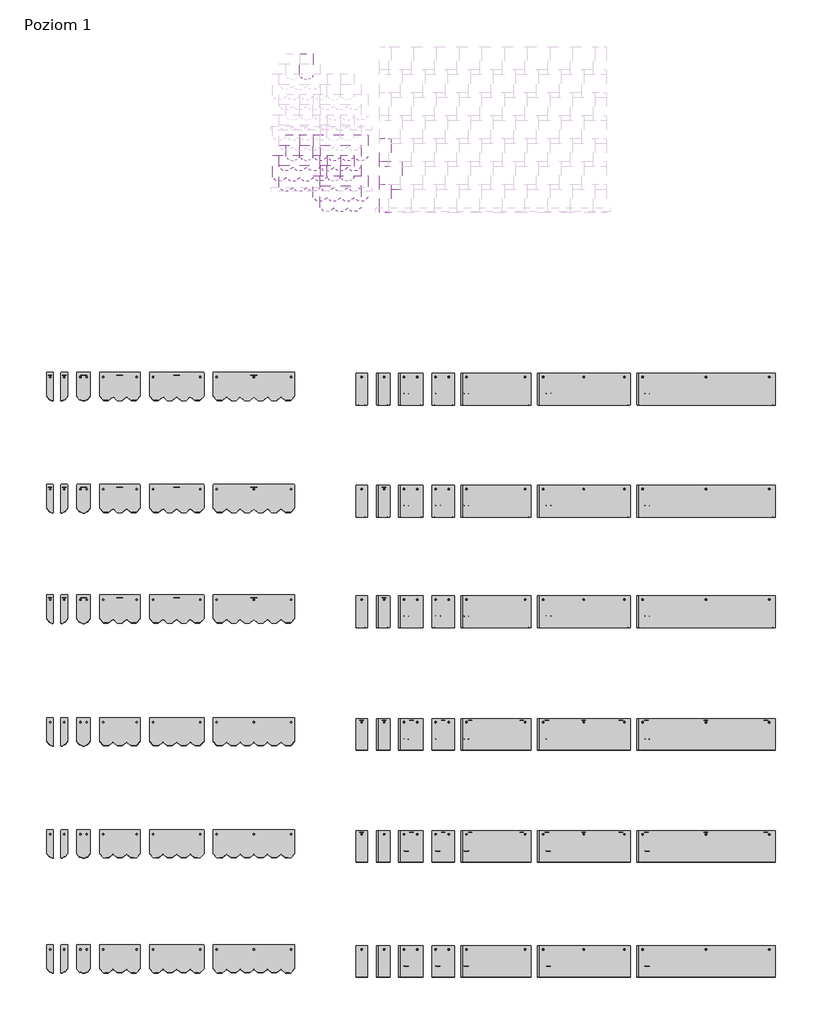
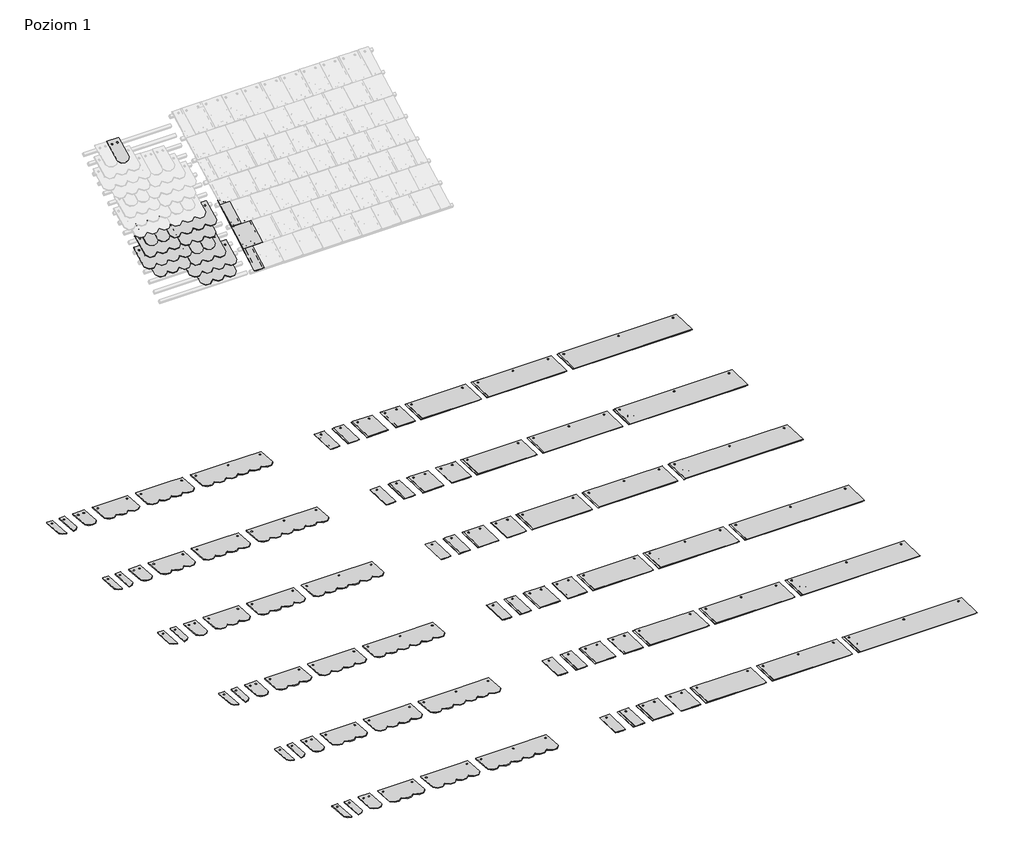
# One storey, part 1 of 2: 94 proxies.
"""IFC4 building model written with IfcOpenShell, lengths in millimetres."""

from ifc_helpers import new_model, si_unit, origin, place, context, project, spatial, transform, mapped, element, save
from components import specialty_equipment_401cbe25, specialty_equipment_79304ab4, specialty_equipment_e27853ea, specialty_equipment_b6c8b219, specialty_equipment_927044ca, specialty_equipment_171a1449, specialty_equipment_2edcc2fe, proxy_1x_fa84d4f5, proxy_1x_8219172e, proxy_1x_6a27df64, proxy_3x_50ce0638, proxy_3x_0312541a, proxy_3x_219e119c, proxy_4x_a6b47b4e, proxy_4x_862be2c8, proxy_4x_7edb7a29, proxy_6x_53d5dd8c, proxy_6x_89e27b86, proxy_6x_9bf9bb63

model = new_model("IFC4")

# Units and contexts
model_context = context("Model", 3, world=origin())
ifc_project = project(units=[si_unit("LENGTHUNIT", "METRE", prefix="MILLI")], contexts=[model_context])

# Site, building, storey
site = spatial("IfcSite", under=ifc_project)
building = spatial("IfcBuilding", under=site)
storey = spatial("IfcBuildingStorey", under=building, Name="Poziom 1", Elevation=0.0)

# Proxies
placement = place(None, origin())
specialty_equipment_shape = specialty_equipment_401cbe25(model_context)
element("IfcBuildingElementProxy", 1, Name="ML PhotonRoof Flat Brick : 0.5X-L", ObjectType="ML PhotonRoof Flat Brick : 0.5X-L", at=placement, inside=storey, context=model_context, shape_type="MappedRepresentation", body=[
    mapped(specialty_equipment_shape, transform((-180.7886234, 2862.1383003, 1771.5895588), x_axis=(1.0, 0.0, 0.0), y_axis=(0.0, 0.8660254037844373, 0.5000000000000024), z_axis=(0.0, -0.5000000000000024, 0.8660254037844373))),
])
element("IfcBuildingElementProxy", 2, Name="ML PhotonRoof Flat Brick : 0.5X-L", ObjectType="ML PhotonRoof Flat Brick : 0.5X-L", at=placement, inside=storey, context=model_context, shape_type="MappedRepresentation", body=[
    mapped(specialty_equipment_shape, transform((-490.7886234, -246.3448256, 0.0), x_axis=(1.0, 0.0, 0.0), y_axis=(0.0, 1.0, 0.0), z_axis=(0.0, 0.0, 1.0))),
])
specialty_equipment_2_shape = specialty_equipment_79304ab4(model_context)
element("IfcBuildingElementProxy", 3, Name="ML PhotonRoof Flat Brick : 0.5X-P", ObjectType="ML PhotonRoof Flat Brick : 0.5X-P", at=placement, inside=storey, context=model_context, shape_type="MappedRepresentation", body=[
    mapped(specialty_equipment_2_shape, transform((-44.1694212, -246.3448256, 0.0), x_axis=(1.0, 0.0, 0.0), y_axis=(0.0, 1.0, 0.0), z_axis=(0.0, 0.0, 1.0))),
])
specialty_equipment_3_shape = specialty_equipment_e27853ea(model_context)
element("IfcBuildingElementProxy", 4, Name="ML PhotonRoof Flat Brick : 1X-L", ObjectType="ML PhotonRoof Flat Brick : 1X-L", at=placement, inside=storey, context=model_context, shape_type="MappedRepresentation", body=[
    mapped(specialty_equipment_3_shape, transform((663.3284945, -246.3448256, 0.0), x_axis=(1.0, 0.0, 0.0), y_axis=(0.0, 1.0, 0.0), z_axis=(0.0, 0.0, 1.0))),
])
element("IfcBuildingElementProxy", 5, Name="ML PhotonRoof Flat Brick Premium : 0.5X-L", ObjectType="ML PhotonRoof Flat Brick Premium : 0.5X-L", at=placement, inside=storey, context=model_context, shape_type="MappedRepresentation", body=[
    mapped(specialty_equipment_shape, transform((-490.7886234, -1726.3448256, 0.0), x_axis=(1.0, 0.0, 0.0), y_axis=(0.0, 1.0, 0.0), z_axis=(0.0, 0.0, 1.0))),
])
element("IfcBuildingElementProxy", 6, Name="ML PhotonRoof Flat Brick Premium : 0.5X-P", ObjectType="ML PhotonRoof Flat Brick Premium : 0.5X-P", at=placement, inside=storey, context=model_context, shape_type="MappedRepresentation", body=[
    mapped(specialty_equipment_2_shape, transform((-44.1694212, -1726.3448256, 0.0), x_axis=(1.0, 0.0, 0.0), y_axis=(0.0, 1.0, 0.0), z_axis=(0.0, 0.0, 1.0))),
])
element("IfcBuildingElementProxy", 7, Name="ML PhotonRoof Flat Brick Premium : 1X-L", ObjectType="ML PhotonRoof Flat Brick Premium : 1X-L", at=placement, inside=storey, context=model_context, shape_type="MappedRepresentation", body=[
    mapped(specialty_equipment_3_shape, transform((663.3284945, -1726.3448256, 0.0), x_axis=(1.0, 0.0, 0.0), y_axis=(0.0, 1.0, 0.0), z_axis=(0.0, 0.0, 1.0))),
])
element("IfcBuildingElementProxy", 8, Name="ML PhotonRoof Flat Anthracite Premium : 0.5X-L", ObjectType="ML PhotonRoof Flat Anthracite Premium : 0.5X-L", at=placement, inside=storey, context=model_context, shape_type="MappedRepresentation", body=[
    mapped(specialty_equipment_shape, transform((-490.7886234, -4806.3448256, 0.0), x_axis=(1.0, 0.0, 0.0), y_axis=(0.0, 1.0, 0.0), z_axis=(0.0, 0.0, 1.0))),
])
element("IfcBuildingElementProxy", 9, Name="ML PhotonRoof Flat Anthracite Premium : 0.5X-P", ObjectType="ML PhotonRoof Flat Anthracite Premium : 0.5X-P", at=placement, inside=storey, context=model_context, shape_type="MappedRepresentation", body=[
    mapped(specialty_equipment_2_shape, transform((-44.1694212, -4806.3448256, 0.0), x_axis=(1.0, 0.0, 0.0), y_axis=(0.0, 1.0, 0.0), z_axis=(0.0, 0.0, 1.0))),
])
element("IfcBuildingElementProxy", 10, Name="ML PhotonRoof Flat Anthracite Premium : 1X-L", ObjectType="ML PhotonRoof Flat Anthracite Premium : 1X-L", at=placement, inside=storey, context=model_context, shape_type="MappedRepresentation", body=[
    mapped(specialty_equipment_3_shape, transform((663.3284945, -4806.3448256, 0.0), x_axis=(1.0, 0.0, 0.0), y_axis=(0.0, 1.0, 0.0), z_axis=(0.0, 0.0, 1.0))),
])
element("IfcBuildingElementProxy", 11, Name="ML PhotonRoof Flat Anthracite : 0.5X-L", ObjectType="ML PhotonRoof Flat Anthracite : 0.5X-L", at=placement, inside=storey, context=model_context, shape_type="MappedRepresentation", body=[
    mapped(specialty_equipment_shape, transform((-490.7886234, -3186.3448256, 0.0), x_axis=(1.0, 0.0, 0.0), y_axis=(0.0, 1.0, 0.0), z_axis=(0.0, 0.0, 1.0))),
])
element("IfcBuildingElementProxy", 12, Name="ML PhotonRoof Flat Anthracite : 0.5X-P", ObjectType="ML PhotonRoof Flat Anthracite : 0.5X-P", at=placement, inside=storey, context=model_context, shape_type="MappedRepresentation", body=[
    mapped(specialty_equipment_2_shape, transform((-44.1694212, -3186.3448256, 0.0), x_axis=(1.0, 0.0, 0.0), y_axis=(0.0, 1.0, 0.0), z_axis=(0.0, 0.0, 1.0))),
])
element("IfcBuildingElementProxy", 13, Name="ML PhotonRoof Flat Anthracite : 1X-L", ObjectType="ML PhotonRoof Flat Anthracite : 1X-L", at=placement, inside=storey, context=model_context, shape_type="MappedRepresentation", body=[
    mapped(specialty_equipment_3_shape, transform((663.3284945, -3186.3448256, 0.0), x_axis=(1.0, 0.0, 0.0), y_axis=(0.0, 1.0, 0.0), z_axis=(0.0, 0.0, 1.0))),
])
element("IfcBuildingElementProxy", 14, Name="ML PhotonRoof Flat FullBlack : 0.5X-L", ObjectType="ML PhotonRoof Flat FullBlack : 0.5X-L", at=placement, inside=storey, context=model_context, shape_type="MappedRepresentation", body=[
    mapped(specialty_equipment_shape, transform((-180.7886234, 2255.9205177, 1421.5895588), x_axis=(1.0, 0.0, 0.0), y_axis=(0.0, 0.8660254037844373, 0.5000000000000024), z_axis=(0.0, -0.5000000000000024, 0.8660254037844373))),
])
element("IfcBuildingElementProxy", 15, Name="ML PhotonRoof Flat FullBlack : 0.5X-L", ObjectType="ML PhotonRoof Flat FullBlack : 0.5X-L", at=placement, inside=storey, context=model_context, shape_type="MappedRepresentation", body=[
    mapped(specialty_equipment_shape, transform((-490.7886234, -6286.3448256, 0.0), x_axis=(1.0, 0.0, 0.0), y_axis=(0.0, 1.0, 0.0), z_axis=(0.0, 0.0, 1.0))),
])
element("IfcBuildingElementProxy", 16, Name="ML PhotonRoof Flat FullBlack : 0.5X-P", ObjectType="ML PhotonRoof Flat FullBlack : 0.5X-P", at=placement, inside=storey, context=model_context, shape_type="MappedRepresentation", body=[
    mapped(specialty_equipment_2_shape, transform((-44.1694212, -6286.3448256, 0.0), x_axis=(1.0, 0.0, 0.0), y_axis=(0.0, 1.0, 0.0), z_axis=(0.0, 0.0, 1.0))),
])
element("IfcBuildingElementProxy", 17, Name="ML PhotonRoof Flat FullBlack : 1X-L", ObjectType="ML PhotonRoof Flat FullBlack : 1X-L", at=placement, inside=storey, context=model_context, shape_type="MappedRepresentation", body=[
    mapped(specialty_equipment_3_shape, transform((-30.7886234, 2559.029409, 1596.5895588), x_axis=(1.0, 0.0, 0.0), y_axis=(0.0, 0.8660254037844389, 0.4999999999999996), z_axis=(0.0, -0.4999999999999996, 0.8660254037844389))),
])
element("IfcBuildingElementProxy", 18, Name="ML PhotonRoof Flat FullBlack : 1X-L", ObjectType="ML PhotonRoof Flat FullBlack : 1X-L", at=placement, inside=storey, context=model_context, shape_type="MappedRepresentation", body=[
    mapped(specialty_equipment_3_shape, transform((663.3284945, -6286.3448256, 0.0), x_axis=(1.0, 0.0, 0.0), y_axis=(0.0, 1.0, 0.0), z_axis=(0.0, 0.0, 1.0))),
])
element("IfcBuildingElementProxy", 19, Name="ML PhotonRoof Flat FullBlack Premium : 0.5X-L", ObjectType="ML PhotonRoof Flat FullBlack Premium : 0.5X-L", at=placement, inside=storey, context=model_context, shape_type="MappedRepresentation", body=[
    mapped(specialty_equipment_shape, transform((-490.7886234, -7806.3448256, 0.0), x_axis=(1.0, 0.0, 0.0), y_axis=(0.0, 1.0, 0.0), z_axis=(0.0, 0.0, 1.0))),
])
element("IfcBuildingElementProxy", 20, Name="ML PhotonRoof Flat FullBlack Premium : 0.5X-P", ObjectType="ML PhotonRoof Flat FullBlack Premium : 0.5X-P", at=placement, inside=storey, context=model_context, shape_type="MappedRepresentation", body=[
    mapped(specialty_equipment_2_shape, transform((-44.1694212, -7806.3448256, 0.0), x_axis=(1.0, 0.0, 0.0), y_axis=(0.0, 1.0, 0.0), z_axis=(0.0, 0.0, 1.0))),
])
element("IfcBuildingElementProxy", 21, Name="ML PhotonRoof Flat FullBlack Premium : 1X-L", ObjectType="ML PhotonRoof Flat FullBlack Premium : 1X-L", at=placement, inside=storey, context=model_context, shape_type="MappedRepresentation", body=[
    mapped(specialty_equipment_3_shape, transform((663.3284945, -7806.3448256, 0.0), x_axis=(1.0, 0.0, 0.0), y_axis=(0.0, 1.0, 0.0), z_axis=(0.0, 0.0, 1.0))),
])
specialty_equipment_4_shape = specialty_equipment_b6c8b219(model_context)
element("IfcBuildingElementProxy", 22, Name="ML PhotonRoof Beaver Brick Premium : 0,5X-L", ObjectType="ML PhotonRoof Beaver Brick Premium : 0,5X-L", at=placement, inside=storey, context=model_context, shape_type="MappedRepresentation", body=[
    mapped(specialty_equipment_4_shape, transform((-4490.7886234, -1726.3448256, 0.0), x_axis=(1.0, 0.0, 0.0), y_axis=(0.0, 1.0, 0.0), z_axis=(0.0, 0.0, 1.0))),
])
specialty_equipment_5_shape = specialty_equipment_927044ca(model_context)
element("IfcBuildingElementProxy", 23, Name="ML PhotonRoof Beaver Brick Premium : 0,5X-P", ObjectType="ML PhotonRoof Beaver Brick Premium : 0,5X-P", at=placement, inside=storey, context=model_context, shape_type="MappedRepresentation", body=[
    mapped(specialty_equipment_5_shape, transform((-4390.7886234, -1726.3448256, 0.0), x_axis=(1.0, 0.0, 0.0), y_axis=(0.0, 1.0, 0.0), z_axis=(0.0, 0.0, 1.0))),
])
specialty_equipment_6_shape = specialty_equipment_171a1449(model_context)
element("IfcBuildingElementProxy", 24, Name="ML PhotonRoof Beaver Brick : 0,5X-L", ObjectType="ML PhotonRoof Beaver Brick : 0,5X-L", at=placement, inside=storey, context=model_context, shape_type="MappedRepresentation", body=[
    mapped(specialty_equipment_6_shape, transform((-4490.7886234, -246.3448256, 0.0), x_axis=(1.0, 0.0, 0.0), y_axis=(0.0, 1.0, 0.0), z_axis=(0.0, 0.0, 1.0))),
])
specialty_equipment_7_shape = specialty_equipment_2edcc2fe(model_context)
element("IfcBuildingElementProxy", 25, Name="ML PhotonRoof Beaver Brick : 0,5X-P", ObjectType="ML PhotonRoof Beaver Brick : 0,5X-P", at=placement, inside=storey, context=model_context, shape_type="MappedRepresentation", body=[
    mapped(specialty_equipment_7_shape, transform((-4390.7886234, -246.3448256, 0.0), x_axis=(1.0, 0.0, 0.0), y_axis=(0.0, 1.0, 0.0), z_axis=(0.0, 0.0, 1.0))),
])
element("IfcBuildingElementProxy", 26, Name="ML PhotonRoof Beaver Anthracite Premium : 0,5X-L", ObjectType="ML PhotonRoof Beaver Anthracite Premium : 0,5X-L", at=placement, inside=storey, context=model_context, shape_type="MappedRepresentation", body=[
    mapped(specialty_equipment_6_shape, transform((-4490.7886234, -4806.3448256, 0.0), x_axis=(1.0, 0.0, 0.0), y_axis=(0.0, 1.0, 0.0), z_axis=(0.0, 0.0, 1.0))),
])
element("IfcBuildingElementProxy", 27, Name="ML PhotonRoof Beaver Anthracite Premium : 0,5X-P", ObjectType="ML PhotonRoof Beaver Anthracite Premium : 0,5X-P", at=placement, inside=storey, context=model_context, shape_type="MappedRepresentation", body=[
    mapped(specialty_equipment_7_shape, transform((-4390.7886234, -4806.3448256, 0.0), x_axis=(1.0, 0.0, 0.0), y_axis=(0.0, 1.0, 0.0), z_axis=(0.0, 0.0, 1.0))),
])
element("IfcBuildingElementProxy", 28, Name="ML PhotonRoof Beaver Anthracite : 0,5X-L", ObjectType="ML PhotonRoof Beaver Anthracite : 0,5X-L", at=placement, inside=storey, context=model_context, shape_type="MappedRepresentation", body=[
    mapped(specialty_equipment_6_shape, transform((-4490.7886234, -3186.3448256, 0.0), x_axis=(1.0, 0.0, 0.0), y_axis=(0.0, 1.0, 0.0), z_axis=(0.0, 0.0, 1.0))),
])
element("IfcBuildingElementProxy", 29, Name="ML PhotonRoof Beaver Anthracite : 0,5X-P", ObjectType="ML PhotonRoof Beaver Anthracite : 0,5X-P", at=placement, inside=storey, context=model_context, shape_type="MappedRepresentation", body=[
    mapped(specialty_equipment_7_shape, transform((-4390.7886234, -3186.3448256, 0.0), x_axis=(1.0, 0.0, 0.0), y_axis=(0.0, 1.0, 0.0), z_axis=(0.0, 0.0, 1.0))),
])
element("IfcBuildingElementProxy", 30, Name="ML PhotonRoof Beaver Fullblack : 0,5X-L", ObjectType="ML PhotonRoof Beaver Fullblack : 0,5X-L", at=placement, inside=storey, context=model_context, shape_type="MappedRepresentation", body=[
    mapped(specialty_equipment_6_shape, transform((-4490.7886234, -6286.3448256, 0.0), x_axis=(1.0, 0.0, 0.0), y_axis=(0.0, 1.0, 0.0), z_axis=(0.0, 0.0, 1.0))),
])
element("IfcBuildingElementProxy", 31, Name="ML PhotonRoof Beaver Fullblack : 0,5X-P", ObjectType="ML PhotonRoof Beaver Fullblack : 0,5X-P", at=placement, inside=storey, context=model_context, shape_type="MappedRepresentation", body=[
    mapped(specialty_equipment_7_shape, transform((-4390.7886234, -6286.3448256, 0.0), x_axis=(1.0, 0.0, 0.0), y_axis=(0.0, 1.0, 0.0), z_axis=(0.0, 0.0, 1.0))),
])
element("IfcBuildingElementProxy", 32, Name="ML PhotonRoof Beaver Fullblack Premium : 0,5X-L", ObjectType="ML PhotonRoof Beaver Fullblack Premium : 0,5X-L", at=placement, inside=storey, context=model_context, shape_type="MappedRepresentation", body=[
    mapped(specialty_equipment_6_shape, transform((-4490.7886234, -7806.3448256, 0.0), x_axis=(1.0, 0.0, 0.0), y_axis=(0.0, 1.0, 0.0), z_axis=(0.0, 0.0, 1.0))),
])
element("IfcBuildingElementProxy", 33, Name="ML PhotonRoof Beaver Fullblack Premium : 0,5X-P", ObjectType="ML PhotonRoof Beaver Fullblack Premium : 0,5X-P", at=placement, inside=storey, context=model_context, shape_type="MappedRepresentation", body=[
    mapped(specialty_equipment_7_shape, transform((-4390.7886234, -7806.3448256, 0.0), x_axis=(1.0, 0.0, 0.0), y_axis=(0.0, 1.0, 0.0), z_axis=(0.0, 0.0, 1.0))),
])
proxy_1x_shape = proxy_1x_fa84d4f5(model_context)
element("IfcBuildingElementProxy", 34, Name="ML PhotonRoof Flat Brick : 1X", ObjectType="ML PhotonRoof Flat Brick : 1X", at=placement, inside=storey, context=model_context, shape_type="MappedRepresentation", body=[
    mapped(proxy_1x_shape, transform((245.708197, -246.3448256, 0.0), x_axis=(1.0, 0.0, 0.0), y_axis=(0.0, 1.0, 0.0), z_axis=(0.0, 0.0, 1.0))),
])
element("IfcBuildingElementProxy", 35, Name="ML PhotonRoof Flat Brick Premium : 1X", ObjectType="ML PhotonRoof Flat Brick Premium : 1X", at=placement, inside=storey, context=model_context, shape_type="MappedRepresentation", body=[
    mapped(proxy_1x_shape, transform((245.708197, -1726.3448256, 0.0), x_axis=(1.0, 0.0, 0.0), y_axis=(0.0, 1.0, 0.0), z_axis=(0.0, 0.0, 1.0))),
])
element("IfcBuildingElementProxy", 36, Name="ML PhotonRoof Flat Anthracite Premium : 1X", ObjectType="ML PhotonRoof Flat Anthracite Premium : 1X", at=placement, inside=storey, context=model_context, shape_type="MappedRepresentation", body=[
    mapped(proxy_1x_shape, transform((245.708197, -4806.3448256, 0.0), x_axis=(1.0, 0.0, 0.0), y_axis=(0.0, 1.0, 0.0), z_axis=(0.0, 0.0, 1.0))),
])
element("IfcBuildingElementProxy", 37, Name="ML PhotonRoof Flat Anthracite : 1X", ObjectType="ML PhotonRoof Flat Anthracite : 1X", at=placement, inside=storey, context=model_context, shape_type="MappedRepresentation", body=[
    mapped(proxy_1x_shape, transform((245.708197, -3186.3448256, 0.0), x_axis=(1.0, 0.0, 0.0), y_axis=(0.0, 1.0, 0.0), z_axis=(0.0, 0.0, 1.0))),
])
element("IfcBuildingElementProxy", 38, Name="ML PhotonRoof Flat FullBlack : 1X", ObjectType="ML PhotonRoof Flat FullBlack : 1X", at=placement, inside=storey, context=model_context, shape_type="MappedRepresentation", body=[
    mapped(proxy_1x_shape, transform((245.708197, -6286.3448256, 0.0), x_axis=(1.0, 0.0, 0.0), y_axis=(0.0, 1.0, 0.0), z_axis=(0.0, 0.0, 1.0))),
])
element("IfcBuildingElementProxy", 39, Name="ML PhotonRoof Flat FullBlack Premium : 1X", ObjectType="ML PhotonRoof Flat FullBlack Premium : 1X", at=placement, inside=storey, context=model_context, shape_type="MappedRepresentation", body=[
    mapped(proxy_1x_shape, transform((245.708197, -7806.3448256, 0.0), x_axis=(1.0, 0.0, 0.0), y_axis=(0.0, 1.0, 0.0), z_axis=(0.0, 0.0, 1.0))),
])
proxy_1x_2_shape = proxy_1x_8219172e(model_context)
element("IfcBuildingElementProxy", 40, Name="ML PhotonRoof Beaver Brick Premium : 1X", ObjectType="ML PhotonRoof Beaver Brick Premium : 1X", at=placement, inside=storey, context=model_context, shape_type="MappedRepresentation", body=[
    mapped(proxy_1x_2_shape, transform((-4090.7886234, -1726.3448256, 0.0), x_axis=(1.0, 0.0, 0.0), y_axis=(0.0, 1.0, 0.0), z_axis=(0.0, 0.0, 1.0))),
])
proxy_1x_3_shape = proxy_1x_6a27df64(model_context)
element("IfcBuildingElementProxy", 41, Name="ML PhotonRoof Beaver Brick : 1X", ObjectType="ML PhotonRoof Beaver Brick : 1X", at=placement, inside=storey, context=model_context, shape_type="MappedRepresentation", body=[
    mapped(proxy_1x_3_shape, transform((-4090.7886234, -246.3448256, 0.0), x_axis=(1.0, 0.0, 0.0), y_axis=(0.0, 1.0, 0.0), z_axis=(0.0, 0.0, 1.0))),
])
element("IfcBuildingElementProxy", 42, Name="ML PhotonRoof Beaver Anthracite Premium : 1X", ObjectType="ML PhotonRoof Beaver Anthracite Premium : 1X", at=placement, inside=storey, context=model_context, shape_type="MappedRepresentation", body=[
    mapped(proxy_1x_3_shape, transform((-4090.7886234, -4806.3448256, 0.0), x_axis=(1.0, 0.0, 0.0), y_axis=(0.0, 1.0, 0.0), z_axis=(0.0, 0.0, 1.0))),
])
element("IfcBuildingElementProxy", 43, Name="ML PhotonRoof Beaver Anthracite : 1X", ObjectType="ML PhotonRoof Beaver Anthracite : 1X", at=placement, inside=storey, context=model_context, shape_type="MappedRepresentation", body=[
    mapped(proxy_1x_3_shape, transform((-1145.027176, 3969.4589373, 2410.9014266), x_axis=(1.0, 0.0, 0.0), y_axis=(0.0, 0.8660254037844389, 0.4999999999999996), z_axis=(0.0, -0.4999999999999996, 0.8660254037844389))),
])
element("IfcBuildingElementProxy", 44, Name="ML PhotonRoof Beaver Anthracite : 1X", ObjectType="ML PhotonRoof Beaver Anthracite : 1X", at=placement, inside=storey, context=model_context, shape_type="MappedRepresentation", body=[
    mapped(proxy_1x_3_shape, transform((-4090.7886234, -3186.3448256, 0.0), x_axis=(1.0, 0.0, 0.0), y_axis=(0.0, 1.0, 0.0), z_axis=(0.0, 0.0, 1.0))),
])
element("IfcBuildingElementProxy", 45, Name="ML PhotonRoof Beaver Fullblack : 1X", ObjectType="ML PhotonRoof Beaver Fullblack : 1X", at=placement, inside=storey, context=model_context, shape_type="MappedRepresentation", body=[
    mapped(proxy_1x_3_shape, transform((-1145.027176, 2895.5874366, 1790.9014266), x_axis=(1.0, 0.0, 0.0), y_axis=(0.0, 0.8660254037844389, 0.4999999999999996), z_axis=(0.0, -0.4999999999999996, 0.8660254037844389))),
])
element("IfcBuildingElementProxy", 46, Name="ML PhotonRoof Beaver Fullblack : 1X", ObjectType="ML PhotonRoof Beaver Fullblack : 1X", at=placement, inside=storey, context=model_context, shape_type="MappedRepresentation", body=[
    mapped(proxy_1x_3_shape, transform((-1325.027176, 2895.5874366, 1790.9014266), x_axis=(1.0, 0.0, 0.0), y_axis=(0.0, 0.8660254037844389, 0.4999999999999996), z_axis=(0.0, -0.4999999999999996, 0.8660254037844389))),
])
element("IfcBuildingElementProxy", 47, Name="ML PhotonRoof Beaver Fullblack : 1X", ObjectType="ML PhotonRoof Beaver Fullblack : 1X", at=placement, inside=storey, context=model_context, shape_type="MappedRepresentation", body=[
    mapped(proxy_1x_3_shape, transform((-4090.7886234, -6286.3448256, 0.0), x_axis=(1.0, 0.0, 0.0), y_axis=(0.0, 1.0, 0.0), z_axis=(0.0, 0.0, 1.0))),
])
element("IfcBuildingElementProxy", 48, Name="ML PhotonRoof Beaver Fullblack Premium : 1X", ObjectType="ML PhotonRoof Beaver Fullblack Premium : 1X", at=placement, inside=storey, context=model_context, shape_type="MappedRepresentation", body=[
    mapped(proxy_1x_3_shape, transform((-605.027176, 2627.1195614, 1635.9014266), x_axis=(1.0, 0.0, 0.0), y_axis=(0.0, 0.8660254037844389, 0.4999999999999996), z_axis=(0.0, -0.4999999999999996, 0.8660254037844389))),
])
element("IfcBuildingElementProxy", 49, Name="ML PhotonRoof Beaver Fullblack Premium : 1X", ObjectType="ML PhotonRoof Beaver Fullblack Premium : 1X", at=placement, inside=storey, context=model_context, shape_type="MappedRepresentation", body=[
    mapped(proxy_1x_3_shape, transform((-785.027176, 2627.1195614, 1635.9014266), x_axis=(1.0, 0.0, 0.0), y_axis=(0.0, 0.8660254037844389, 0.4999999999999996), z_axis=(0.0, -0.4999999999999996, 0.8660254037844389))),
])
element("IfcBuildingElementProxy", 50, Name="ML PhotonRoof Beaver Fullblack Premium : 1X", ObjectType="ML PhotonRoof Beaver Fullblack Premium : 1X", at=placement, inside=storey, context=model_context, shape_type="MappedRepresentation", body=[
    mapped(proxy_1x_3_shape, transform((-4090.7886234, -7806.3448256, 0.0), x_axis=(1.0, 0.0, 0.0), y_axis=(0.0, 1.0, 0.0), z_axis=(0.0, 0.0, 1.0))),
])
proxy_3x_shape = proxy_3x_50ce0638(model_context)
element("IfcBuildingElementProxy", 51, Name="ML PhotonRoof Flat Brick : 3X", ObjectType="ML PhotonRoof Flat Brick : 3X", at=placement, inside=storey, context=model_context, shape_type="MappedRepresentation", body=[
    mapped(proxy_3x_shape, transform((1071.122432, -246.3448256, 0.0), x_axis=(1.0, 0.0, 0.0), y_axis=(0.0, 1.0, 0.0), z_axis=(0.0, 0.0, 1.0))),
])
element("IfcBuildingElementProxy", 52, Name="ML PhotonRoof Flat Brick Premium : 3X", ObjectType="ML PhotonRoof Flat Brick Premium : 3X", at=placement, inside=storey, context=model_context, shape_type="MappedRepresentation", body=[
    mapped(proxy_3x_shape, transform((1071.122432, -1726.3448256, 0.0), x_axis=(1.0, 0.0, 0.0), y_axis=(0.0, 1.0, 0.0), z_axis=(0.0, 0.0, 1.0))),
])
element("IfcBuildingElementProxy", 53, Name="ML PhotonRoof Flat Anthracite Premium : 3X", ObjectType="ML PhotonRoof Flat Anthracite Premium : 3X", at=placement, inside=storey, context=model_context, shape_type="MappedRepresentation", body=[
    mapped(proxy_3x_shape, transform((1071.122432, -4806.3448256, 0.0), x_axis=(1.0, 0.0, 0.0), y_axis=(0.0, 1.0, 0.0), z_axis=(0.0, 0.0, 1.0))),
])
element("IfcBuildingElementProxy", 54, Name="ML PhotonRoof Flat Anthracite : 3X", ObjectType="ML PhotonRoof Flat Anthracite : 3X", at=placement, inside=storey, context=model_context, shape_type="MappedRepresentation", body=[
    mapped(proxy_3x_shape, transform((1071.122432, -3186.3448256, 0.0), x_axis=(1.0, 0.0, 0.0), y_axis=(0.0, 1.0, 0.0), z_axis=(0.0, 0.0, 1.0))),
])
element("IfcBuildingElementProxy", 55, Name="ML PhotonRoof Flat FullBlack : 3X", ObjectType="ML PhotonRoof Flat FullBlack : 3X", at=placement, inside=storey, context=model_context, shape_type="MappedRepresentation", body=[
    mapped(proxy_3x_shape, transform((1071.122432, -6286.3448256, 0.0), x_axis=(1.0, 0.0, 0.0), y_axis=(0.0, 1.0, 0.0), z_axis=(0.0, 0.0, 1.0))),
])
element("IfcBuildingElementProxy", 56, Name="ML PhotonRoof Flat FullBlack Premium : 3X", ObjectType="ML PhotonRoof Flat FullBlack Premium : 3X", at=placement, inside=storey, context=model_context, shape_type="MappedRepresentation", body=[
    mapped(proxy_3x_shape, transform((1071.122432, -7806.3448256, 0.0), x_axis=(1.0, 0.0, 0.0), y_axis=(0.0, 1.0, 0.0), z_axis=(0.0, 0.0, 1.0))),
])
proxy_3x_2_shape = proxy_3x_0312541a(model_context)
element("IfcBuildingElementProxy", 57, Name="ML PhotonRoof Beaver Brick Premium : 3X", ObjectType="ML PhotonRoof Beaver Brick Premium : 3X", at=placement, inside=storey, context=model_context, shape_type="MappedRepresentation", body=[
    mapped(proxy_3x_2_shape, transform((-875.027176, 2761.353499, 1713.4014266), x_axis=(1.0, 0.0, 0.0), y_axis=(0.0, 0.8660254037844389, 0.4999999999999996), z_axis=(0.0, -0.4999999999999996, 0.8660254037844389))),
])
element("IfcBuildingElementProxy", 58, Name="ML PhotonRoof Beaver Brick Premium : 3X", ObjectType="ML PhotonRoof Beaver Brick Premium : 3X", at=placement, inside=storey, context=model_context, shape_type="MappedRepresentation", body=[
    mapped(proxy_3x_2_shape, transform((-3790.7886234, -1726.3448256, 0.0), x_axis=(1.0, 0.0, 0.0), y_axis=(0.0, 1.0, 0.0), z_axis=(0.0, 0.0, 1.0))),
])
proxy_3x_3_shape = proxy_3x_219e119c(model_context)
element("IfcBuildingElementProxy", 59, Name="ML PhotonRoof Beaver Brick : 3X", ObjectType="ML PhotonRoof Beaver Brick : 3X", at=placement, inside=storey, context=model_context, shape_type="MappedRepresentation", body=[
    mapped(proxy_3x_3_shape, transform((-3790.7886234, -246.3448256, 0.0), x_axis=(1.0, 0.0, 0.0), y_axis=(0.0, 1.0, 0.0), z_axis=(0.0, 0.0, 1.0))),
])
element("IfcBuildingElementProxy", 60, Name="ML PhotonRoof Beaver Anthracite Premium : 3X", ObjectType="ML PhotonRoof Beaver Anthracite Premium : 3X", at=placement, inside=storey, context=model_context, shape_type="MappedRepresentation", body=[
    mapped(proxy_3x_3_shape, transform((-3790.7886234, -4806.3448256, 0.0), x_axis=(1.0, 0.0, 0.0), y_axis=(0.0, 1.0, 0.0), z_axis=(0.0, 0.0, 1.0))),
])
element("IfcBuildingElementProxy", 61, Name="ML PhotonRoof Beaver Anthracite : 3X", ObjectType="ML PhotonRoof Beaver Anthracite : 3X", at=placement, inside=storey, context=model_context, shape_type="MappedRepresentation", body=[
    mapped(proxy_3x_3_shape, transform((-3790.7886234, -3186.3448256, 0.0), x_axis=(1.0, 0.0, 0.0), y_axis=(0.0, 1.0, 0.0), z_axis=(0.0, 0.0, 1.0))),
])
element("IfcBuildingElementProxy", 62, Name="ML PhotonRoof Beaver Fullblack : 3X", ObjectType="ML PhotonRoof Beaver Fullblack : 3X", at=placement, inside=storey, context=model_context, shape_type="MappedRepresentation", body=[
    mapped(proxy_3x_3_shape, transform((-1415.027176, 2761.353499, 1713.4014266), x_axis=(1.0, 0.0, 0.0), y_axis=(0.0, 0.8660254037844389, 0.4999999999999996), z_axis=(0.0, -0.4999999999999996, 0.8660254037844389))),
])
element("IfcBuildingElementProxy", 63, Name="ML PhotonRoof Beaver Fullblack : 3X", ObjectType="ML PhotonRoof Beaver Fullblack : 3X", at=placement, inside=storey, context=model_context, shape_type="MappedRepresentation", body=[
    mapped(proxy_3x_3_shape, transform((-1415.027176, 2492.8856239, 1558.4014266), x_axis=(1.0, 0.0, 0.0), y_axis=(0.0, 0.8660254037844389, 0.4999999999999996), z_axis=(0.0, -0.4999999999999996, 0.8660254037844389))),
])
element("IfcBuildingElementProxy", 64, Name="ML PhotonRoof Beaver Fullblack : 3X", ObjectType="ML PhotonRoof Beaver Fullblack : 3X", at=placement, inside=storey, context=model_context, shape_type="MappedRepresentation", body=[
    mapped(proxy_3x_3_shape, transform((-3790.7886234, -6286.3448256, 0.0), x_axis=(1.0, 0.0, 0.0), y_axis=(0.0, 1.0, 0.0), z_axis=(0.0, 0.0, 1.0))),
])
element("IfcBuildingElementProxy", 65, Name="ML PhotonRoof Beaver Fullblack Premium : 3X", ObjectType="ML PhotonRoof Beaver Fullblack Premium : 3X", at=placement, inside=storey, context=model_context, shape_type="MappedRepresentation", body=[
    mapped(proxy_3x_3_shape, transform((-875.027176, 2492.8856239, 1558.4014266), x_axis=(1.0, 0.0, 0.0), y_axis=(0.0, 0.8660254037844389, 0.4999999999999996), z_axis=(0.0, -0.4999999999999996, 0.8660254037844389))),
])
element("IfcBuildingElementProxy", 66, Name="ML PhotonRoof Beaver Fullblack Premium : 3X", ObjectType="ML PhotonRoof Beaver Fullblack Premium : 3X", at=placement, inside=storey, context=model_context, shape_type="MappedRepresentation", body=[
    mapped(proxy_3x_3_shape, transform((-875.027176, 2224.4177487, 1403.4014266), x_axis=(1.0, 0.0, 0.0), y_axis=(0.0, 0.8660254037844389, 0.4999999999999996), z_axis=(0.0, -0.4999999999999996, 0.8660254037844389))),
])
element("IfcBuildingElementProxy", 67, Name="ML PhotonRoof Beaver Fullblack Premium : 3X", ObjectType="ML PhotonRoof Beaver Fullblack Premium : 3X", at=placement, inside=storey, context=model_context, shape_type="MappedRepresentation", body=[
    mapped(proxy_3x_3_shape, transform((-3790.7886234, -7806.3448256, 0.0), x_axis=(1.0, 0.0, 0.0), y_axis=(0.0, 1.0, 0.0), z_axis=(0.0, 0.0, 1.0))),
])
proxy_4x_shape = proxy_4x_a6b47b4e(model_context)
element("IfcBuildingElementProxy", 68, Name="ML PhotonRoof Flat Brick : 4X", ObjectType="ML PhotonRoof Flat Brick : 4X", at=placement, inside=storey, context=model_context, shape_type="MappedRepresentation", body=[
    mapped(proxy_4x_shape, transform((2084.1057062, -246.3448256, 0.0), x_axis=(1.0, 0.0, 0.0), y_axis=(0.0, 1.0, 0.0), z_axis=(0.0, 0.0, 1.0))),
])
element("IfcBuildingElementProxy", 69, Name="ML PhotonRoof Flat Brick Premium : 4X", ObjectType="ML PhotonRoof Flat Brick Premium : 4X", at=placement, inside=storey, context=model_context, shape_type="MappedRepresentation", body=[
    mapped(proxy_4x_shape, transform((2084.1057062, -1726.3448256, 0.0), x_axis=(1.0, 0.0, 0.0), y_axis=(0.0, 1.0, 0.0), z_axis=(0.0, 0.0, 1.0))),
])
element("IfcBuildingElementProxy", 70, Name="ML PhotonRoof Flat Anthracite Premium : 4X", ObjectType="ML PhotonRoof Flat Anthracite Premium : 4X", at=placement, inside=storey, context=model_context, shape_type="MappedRepresentation", body=[
    mapped(proxy_4x_shape, transform((2084.1057062, -4806.3448256, 0.0), x_axis=(1.0, 0.0, 0.0), y_axis=(0.0, 1.0, 0.0), z_axis=(0.0, 0.0, 1.0))),
])
element("IfcBuildingElementProxy", 71, Name="ML PhotonRoof Flat Anthracite : 4X", ObjectType="ML PhotonRoof Flat Anthracite : 4X", at=placement, inside=storey, context=model_context, shape_type="MappedRepresentation", body=[
    mapped(proxy_4x_shape, transform((2084.1057062, -3186.3448256, 0.0), x_axis=(1.0, 0.0, 0.0), y_axis=(0.0, 1.0, 0.0), z_axis=(0.0, 0.0, 1.0))),
])
element("IfcBuildingElementProxy", 72, Name="ML PhotonRoof Flat FullBlack : 4X", ObjectType="ML PhotonRoof Flat FullBlack : 4X", at=placement, inside=storey, context=model_context, shape_type="MappedRepresentation", body=[
    mapped(proxy_4x_shape, transform((2084.1057062, -6286.3448256, 0.0), x_axis=(1.0, 0.0, 0.0), y_axis=(0.0, 1.0, 0.0), z_axis=(0.0, 0.0, 1.0))),
])
element("IfcBuildingElementProxy", 73, Name="ML PhotonRoof Flat FullBlack Premium : 4X", ObjectType="ML PhotonRoof Flat FullBlack Premium : 4X", at=placement, inside=storey, context=model_context, shape_type="MappedRepresentation", body=[
    mapped(proxy_4x_shape, transform((2084.1057062, -7806.3448256, 0.0), x_axis=(1.0, 0.0, 0.0), y_axis=(0.0, 1.0, 0.0), z_axis=(0.0, 0.0, 1.0))),
])
proxy_4x_2_shape = proxy_4x_862be2c8(model_context)
element("IfcBuildingElementProxy", 74, Name="ML PhotonRoof Beaver Brick Premium : 4X", ObjectType="ML PhotonRoof Beaver Brick Premium : 4X", at=placement, inside=storey, context=model_context, shape_type="MappedRepresentation", body=[
    mapped(proxy_4x_2_shape, transform((-965.027176, 2895.5874366, 1790.9014266), x_axis=(1.0, 0.0, 0.0), y_axis=(0.0, 0.8660254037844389, 0.4999999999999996), z_axis=(0.0, -0.4999999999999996, 0.8660254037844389))),
])
element("IfcBuildingElementProxy", 75, Name="ML PhotonRoof Beaver Brick Premium : 4X", ObjectType="ML PhotonRoof Beaver Brick Premium : 4X", at=placement, inside=storey, context=model_context, shape_type="MappedRepresentation", body=[
    mapped(proxy_4x_2_shape, transform((-3130.7886234, -1726.3448256, 0.0), x_axis=(1.0, 0.0, 0.0), y_axis=(0.0, 1.0, 0.0), z_axis=(0.0, 0.0, 1.0))),
])
proxy_4x_3_shape = proxy_4x_7edb7a29(model_context)
element("IfcBuildingElementProxy", 76, Name="ML PhotonRoof Beaver Brick : 4X", ObjectType="ML PhotonRoof Beaver Brick : 4X", at=placement, inside=storey, context=model_context, shape_type="MappedRepresentation", body=[
    mapped(proxy_4x_3_shape, transform((-3130.7886234, -246.3448256, 0.0), x_axis=(1.0, 0.0, 0.0), y_axis=(0.0, 1.0, 0.0), z_axis=(0.0, 0.0, 1.0))),
])
element("IfcBuildingElementProxy", 77, Name="ML PhotonRoof Beaver Anthracite Premium : 4X", ObjectType="ML PhotonRoof Beaver Anthracite Premium : 4X", at=placement, inside=storey, context=model_context, shape_type="MappedRepresentation", body=[
    mapped(proxy_4x_3_shape, transform((-3130.7886234, -4806.3448256, 0.0), x_axis=(1.0, 0.0, 0.0), y_axis=(0.0, 1.0, 0.0), z_axis=(0.0, 0.0, 1.0))),
])
element("IfcBuildingElementProxy", 78, Name="ML PhotonRoof Beaver Anthracite : 4X", ObjectType="ML PhotonRoof Beaver Anthracite : 4X", at=placement, inside=storey, context=model_context, shape_type="MappedRepresentation", body=[
    mapped(proxy_4x_3_shape, transform((-3130.7886234, -3186.3448256, 0.0), x_axis=(1.0, 0.0, 0.0), y_axis=(0.0, 1.0, 0.0), z_axis=(0.0, 0.0, 1.0))),
])
element("IfcBuildingElementProxy", 79, Name="ML PhotonRoof Beaver Fullblack : 4X", ObjectType="ML PhotonRoof Beaver Fullblack : 4X", at=placement, inside=storey, context=model_context, shape_type="MappedRepresentation", body=[
    mapped(proxy_4x_3_shape, transform((-1505.027176, 2627.1195614, 1635.9014266), x_axis=(1.0, 0.0, 0.0), y_axis=(0.0, 0.8660254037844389, 0.4999999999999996), z_axis=(0.0, -0.4999999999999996, 0.8660254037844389))),
])
element("IfcBuildingElementProxy", 80, Name="ML PhotonRoof Beaver Fullblack : 4X", ObjectType="ML PhotonRoof Beaver Fullblack : 4X", at=placement, inside=storey, context=model_context, shape_type="MappedRepresentation", body=[
    mapped(proxy_4x_3_shape, transform((-3130.7886234, -6286.3448256, 0.0), x_axis=(1.0, 0.0, 0.0), y_axis=(0.0, 1.0, 0.0), z_axis=(0.0, 0.0, 1.0))),
])
element("IfcBuildingElementProxy", 81, Name="ML PhotonRoof Beaver Fullblack Premium : 4X", ObjectType="ML PhotonRoof Beaver Fullblack Premium : 4X", at=placement, inside=storey, context=model_context, shape_type="MappedRepresentation", body=[
    mapped(proxy_4x_3_shape, transform((-965.027176, 2358.6516863, 1480.9014266), x_axis=(1.0, 0.0, 0.0), y_axis=(0.0, 0.8660254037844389, 0.4999999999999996), z_axis=(0.0, -0.4999999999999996, 0.8660254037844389))),
])
element("IfcBuildingElementProxy", 82, Name="ML PhotonRoof Beaver Fullblack Premium : 4X", ObjectType="ML PhotonRoof Beaver Fullblack Premium : 4X", at=placement, inside=storey, context=model_context, shape_type="MappedRepresentation", body=[
    mapped(proxy_4x_3_shape, transform((-3130.7886234, -7806.3448256, 0.0), x_axis=(1.0, 0.0, 0.0), y_axis=(0.0, 1.0, 0.0), z_axis=(0.0, 0.0, 1.0))),
])
proxy_6x_shape = proxy_6x_53d5dd8c(model_context)
element("IfcBuildingElementProxy", 83, Name="ML PhotonRoof Flat Brick : 6X", ObjectType="ML PhotonRoof Flat Brick : 6X", at=placement, inside=storey, context=model_context, shape_type="MappedRepresentation", body=[
    mapped(proxy_6x_shape, transform((3398.4996769, -246.3448256, 0.0), x_axis=(1.0, 0.0, 0.0), y_axis=(0.0, 1.0, 0.0), z_axis=(0.0, 0.0, 1.0))),
])
element("IfcBuildingElementProxy", 84, Name="ML PhotonRoof Flat Brick Premium : 6X", ObjectType="ML PhotonRoof Flat Brick Premium : 6X", at=placement, inside=storey, context=model_context, shape_type="MappedRepresentation", body=[
    mapped(proxy_6x_shape, transform((3398.4996769, -1726.3448256, 0.0), x_axis=(1.0, 0.0, 0.0), y_axis=(0.0, 1.0, 0.0), z_axis=(0.0, 0.0, 1.0))),
])
element("IfcBuildingElementProxy", 85, Name="ML PhotonRoof Flat Anthracite Premium : 6X", ObjectType="ML PhotonRoof Flat Anthracite Premium : 6X", at=placement, inside=storey, context=model_context, shape_type="MappedRepresentation", body=[
    mapped(proxy_6x_shape, transform((3398.4996769, -4806.3448256, 0.0), x_axis=(1.0, 0.0, 0.0), y_axis=(0.0, 1.0, 0.0), z_axis=(0.0, 0.0, 1.0))),
])
element("IfcBuildingElementProxy", 86, Name="ML PhotonRoof Flat Anthracite : 6X", ObjectType="ML PhotonRoof Flat Anthracite : 6X", at=placement, inside=storey, context=model_context, shape_type="MappedRepresentation", body=[
    mapped(proxy_6x_shape, transform((3398.4996769, -3186.3448256, 0.0), x_axis=(1.0, 0.0, 0.0), y_axis=(0.0, 1.0, 0.0), z_axis=(0.0, 0.0, 1.0))),
])
element("IfcBuildingElementProxy", 87, Name="ML PhotonRoof Flat FullBlack : 6X", ObjectType="ML PhotonRoof Flat FullBlack : 6X", at=placement, inside=storey, context=model_context, shape_type="MappedRepresentation", body=[
    mapped(proxy_6x_shape, transform((3398.4996769, -6286.3448256, 0.0), x_axis=(1.0, 0.0, 0.0), y_axis=(0.0, 1.0, 0.0), z_axis=(0.0, 0.0, 1.0))),
])
element("IfcBuildingElementProxy", 88, Name="ML PhotonRoof Flat FullBlack Premium : 6X", ObjectType="ML PhotonRoof Flat FullBlack Premium : 6X", at=placement, inside=storey, context=model_context, shape_type="MappedRepresentation", body=[
    mapped(proxy_6x_shape, transform((3398.4996769, -7806.3448256, 0.0), x_axis=(1.0, 0.0, 0.0), y_axis=(0.0, 1.0, 0.0), z_axis=(0.0, 0.0, 1.0))),
])
proxy_6x_2_shape = proxy_6x_89e27b86(model_context)
element("IfcBuildingElementProxy", 89, Name="ML PhotonRoof Beaver Brick Premium : 6X", ObjectType="ML PhotonRoof Beaver Brick Premium : 6X", at=placement, inside=storey, context=model_context, shape_type="MappedRepresentation", body=[
    mapped(proxy_6x_2_shape, transform((-2290.7886234, -1726.3448256, 0.0), x_axis=(1.0, 0.0, 0.0), y_axis=(0.0, 1.0, 0.0), z_axis=(0.0, 0.0, 1.0))),
])
proxy_6x_3_shape = proxy_6x_9bf9bb63(model_context)
element("IfcBuildingElementProxy", 90, Name="ML PhotonRoof Beaver Brick : 6X", ObjectType="ML PhotonRoof Beaver Brick : 6X", at=placement, inside=storey, context=model_context, shape_type="MappedRepresentation", body=[
    mapped(proxy_6x_3_shape, transform((-2290.7886234, -246.3448256, 0.0), x_axis=(1.0, 0.0, 0.0), y_axis=(0.0, 1.0, 0.0), z_axis=(0.0, 0.0, 1.0))),
])
element("IfcBuildingElementProxy", 91, Name="ML PhotonRoof Beaver Anthracite Premium : 6X", ObjectType="ML PhotonRoof Beaver Anthracite Premium : 6X", at=placement, inside=storey, context=model_context, shape_type="MappedRepresentation", body=[
    mapped(proxy_6x_3_shape, transform((-2290.7886234, -4806.3448256, 0.0), x_axis=(1.0, 0.0, 0.0), y_axis=(0.0, 1.0, 0.0), z_axis=(0.0, 0.0, 1.0))),
])
element("IfcBuildingElementProxy", 92, Name="ML PhotonRoof Beaver Anthracite : 6X", ObjectType="ML PhotonRoof Beaver Anthracite : 6X", at=placement, inside=storey, context=model_context, shape_type="MappedRepresentation", body=[
    mapped(proxy_6x_3_shape, transform((-2290.7886234, -3186.3448256, 0.0), x_axis=(1.0, 0.0, 0.0), y_axis=(0.0, 1.0, 0.0), z_axis=(0.0, 0.0, 1.0))),
])
element("IfcBuildingElementProxy", 93, Name="ML PhotonRoof Beaver Fullblack : 6X", ObjectType="ML PhotonRoof Beaver Fullblack : 6X", at=placement, inside=storey, context=model_context, shape_type="MappedRepresentation", body=[
    mapped(proxy_6x_3_shape, transform((-2290.7886234, -6286.3448256, 0.0), x_axis=(1.0, 0.0, 0.0), y_axis=(0.0, 1.0, 0.0), z_axis=(0.0, 0.0, 1.0))),
])
element("IfcBuildingElementProxy", 94, Name="ML PhotonRoof Beaver Fullblack Premium : 6X", ObjectType="ML PhotonRoof Beaver Fullblack Premium : 6X", at=placement, inside=storey, context=model_context, shape_type="MappedRepresentation", body=[
    mapped(proxy_6x_3_shape, transform((-2290.7886234, -7806.3448256, 0.0), x_axis=(1.0, 0.0, 0.0), y_axis=(0.0, 1.0, 0.0), z_axis=(0.0, 0.0, 1.0))),
])

save(model, "model.ifc")
